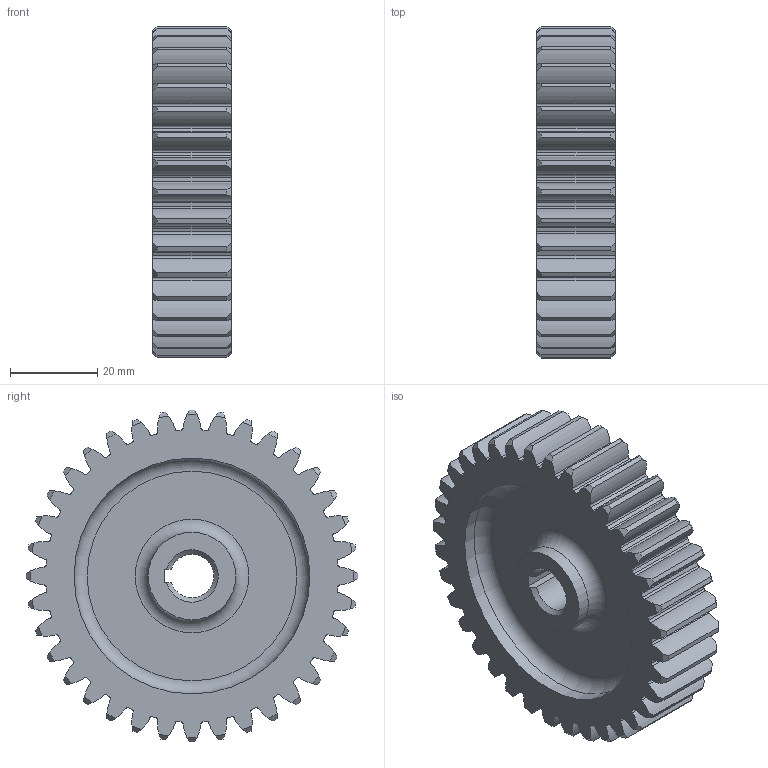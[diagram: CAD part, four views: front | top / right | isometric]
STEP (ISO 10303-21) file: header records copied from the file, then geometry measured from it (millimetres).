
FILE_DESCRIPTION(/* description */ (''),/* implementation_level */ '2;1');
FILE_NAME(/* name */ '',/* time_stamp */ '2025-10-01T16:41:47+09:00',/* author */ ('jhkim'),/* organization */ (''),/* preprocessor_version */ 'ST-DEVELOPER v20.1',/* originating_system */ 'Autodesk Inventor 2026',/* authorisation */ '');
FILE_SCHEMA (('AUTOMOTIVE_DESIGN { 1 0 10303 214 3 1 1 }'));
Length unit declared in the file: millimetre
Products named in the file (1): 스퍼 기어
Bounding box: 18 x 76 x 76 mm (x, y, z)
Volume: 48132.6 mm3; surface area: 18499.8 mm2
Topology: 1 solids, 1 shells, 308 faces, 906 edges, 604 vertices
Faces by surface type: cylinder 221, cone 74, plane 9, torus 4
Full cylindrical faces by diameter (mm): 20 x2, 54 x2
Entity records: 10745 total; most frequent: CARTESIAN_POINT 2259, DIRECTION 1904, ORIENTED_EDGE 1812, EDGE_CURVE 906, AXIS2_PLACEMENT_3D 837, VERTEX_POINT 604, CIRCLE 528, EDGE_LOOP 314
